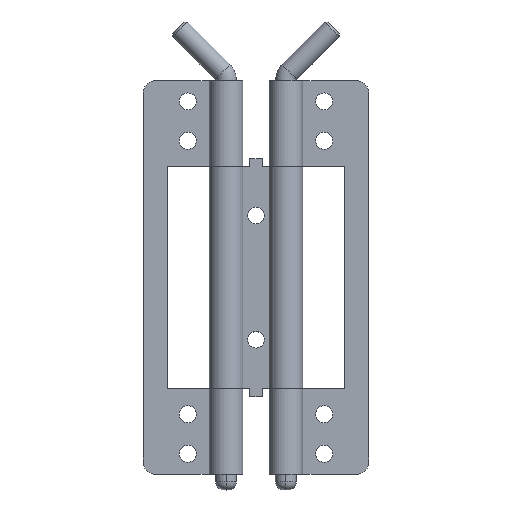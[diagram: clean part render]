
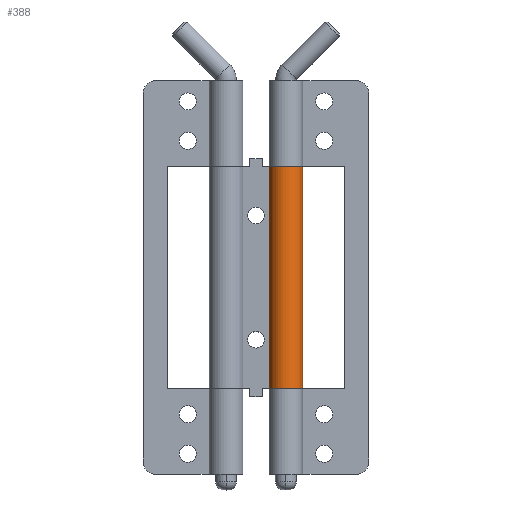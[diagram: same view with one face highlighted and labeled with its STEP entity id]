
A CAD part, top view. The second image highlights one B-rep face of the part: STEP entity #388.
In plain terms, the highlighted cylindrical face has radius 4.05 mm (diameter 8.1 mm), a partial arc.
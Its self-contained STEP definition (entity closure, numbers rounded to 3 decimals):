
#62 = VERTEX_POINT ( 'NONE', #2478 ) ;
#80 = VERTEX_POINT ( 'NONE', #2454 ) ;
#81 = EDGE_CURVE ( 'NONE', #80, #62, #2464, .T. ) ;
#316 = ORIENTED_EDGE ( 'NONE', *, *, #471, .F. ) ;
#317 = VERTEX_POINT ( 'NONE', #1165 ) ;
#338 = VERTEX_POINT ( 'NONE', #1096 ) ;
#347 = ORIENTED_EDGE ( 'NONE', *, *, #356, .F. ) ;
#354 = EDGE_CURVE ( 'NONE', #80, #317, #1326, .T. ) ;
#356 = EDGE_CURVE ( 'NONE', #317, #338, #1329, .T. ) ;
#388 = ADVANCED_FACE ( 'NONE', ( #1386 ), #1331, .T. ) ;
#394 = ORIENTED_EDGE ( 'NONE', *, *, #354, .F. ) ;
#400 = EDGE_LOOP ( 'NONE', ( #470, #316, #347, #394 ) ) ;
#470 = ORIENTED_EDGE ( 'NONE', *, *, #81, .T. ) ;
#471 = EDGE_CURVE ( 'NONE', #338, #62, #1579, .T. ) ;
#1096 = CARTESIAN_POINT ( 'NONE',  ( 2., 6.682, 7.052 ) ) ;
#1165 = CARTESIAN_POINT ( 'NONE',  ( 55.4, 6.682, 7.052 ) ) ;
#1302 = CARTESIAN_POINT ( 'NONE',  ( 55.4, 10., 9.375 ) ) ;
#1326 = CIRCLE ( 'NONE', #1362, 4.05 ) ;
#1328 = CARTESIAN_POINT ( 'NONE',  ( 2., 6.682, 7.052 ) ) ;
#1329 = LINE ( 'NONE', #1328, #1484 ) ;
#1331 = CYLINDRICAL_SURFACE ( 'NONE', #1370, 4.05 ) ;
#1357 = DIRECTION ( 'NONE',  ( 1., 0., 0. ) ) ;
#1361 = CARTESIAN_POINT ( 'NONE',  ( 2., 10., 9.375 ) ) ;
#1362 = AXIS2_PLACEMENT_3D ( 'NONE', #1302, #1357, #1409 ) ;
#1370 = AXIS2_PLACEMENT_3D ( 'NONE', #1361, #1381, #1388 ) ;
#1381 = DIRECTION ( 'NONE',  ( -1., 0., 0. ) ) ;
#1386 = FACE_OUTER_BOUND ( 'NONE', #400, .T. ) ;
#1388 = DIRECTION ( 'NONE',  ( 0., -0.819, -0.574 ) ) ;
#1409 = DIRECTION ( 'NONE',  ( 0., 0., 1. ) ) ;
#1483 = DIRECTION ( 'NONE',  ( -1., 0., 0. ) ) ;
#1484 = VECTOR ( 'NONE', #1483, 1000. ) ;
#1486 = AXIS2_PLACEMENT_3D ( 'NONE', #1607, #1606, #1507 ) ;
#1507 = DIRECTION ( 'NONE',  ( 0., 0., 1. ) ) ;
#1579 = CIRCLE ( 'NONE', #1486, 4.05 ) ;
#1606 = DIRECTION ( 'NONE',  ( -1., 0., 0. ) ) ;
#1607 = CARTESIAN_POINT ( 'NONE',  ( 2., 10., 9.375 ) ) ;
#2358 = VECTOR ( 'NONE', #2393, 1000. ) ;
#2393 = DIRECTION ( 'NONE',  ( -1., 0., 0. ) ) ;
#2394 = CARTESIAN_POINT ( 'NONE',  ( 57.4, 10., 5.325 ) ) ;
#2454 = CARTESIAN_POINT ( 'NONE',  ( 55.4, 10., 5.325 ) ) ;
#2464 = LINE ( 'NONE', #2394, #2358 ) ;
#2478 = CARTESIAN_POINT ( 'NONE',  ( 2., 10., 5.325 ) ) ;
